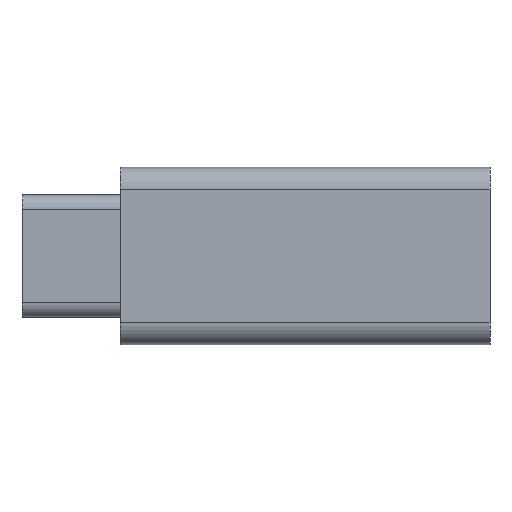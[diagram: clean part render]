
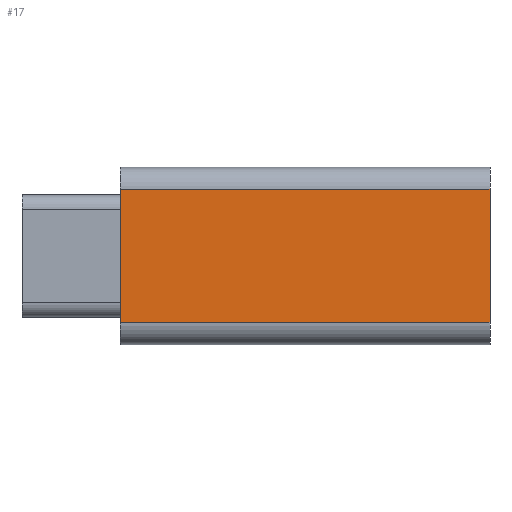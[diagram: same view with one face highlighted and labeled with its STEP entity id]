
A CAD part, top view. The second image highlights one B-rep face of the part: STEP entity #17.
In plain terms, the highlighted planar face has unit normal (0, 0, 1).
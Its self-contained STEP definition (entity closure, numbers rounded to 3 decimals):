
#17 = ADVANCED_FACE('',(#18),#32,.F.);
#18 = FACE_BOUND('',#19,.F.);
#19 = EDGE_LOOP('',(#20,#55,#83,#111));
#20 = ORIENTED_EDGE('',*,*,#21,.F.);
#21 = EDGE_CURVE('',#22,#24,#26,.T.);
#22 = VERTEX_POINT('',#23);
#23 = CARTESIAN_POINT('',(54.827,-36.639,-1.74));
#24 = VERTEX_POINT('',#25);
#25 = CARTESIAN_POINT('',(54.827,-27.639,-1.74));
#26 = SURFACE_CURVE('',#27,(#31,#43),.PCURVE_S1.);
#27 = LINE('',#28,#29);
#28 = CARTESIAN_POINT('',(54.827,-38.139,-1.74));
#29 = VECTOR('',#30,1.);
#30 = DIRECTION('',(0.,1.,0.));
#31 = PCURVE('',#32,#37);
#32 = PLANE('',#33);
#33 = AXIS2_PLACEMENT_3D('',#34,#35,#36);
#34 = CARTESIAN_POINT('',(29.827,-38.139,-1.74));
#35 = DIRECTION('',(0.,0.,-1.));
#36 = DIRECTION('',(1.,0.,0.));
#37 = DEFINITIONAL_REPRESENTATION('',(#38),#42);
#38 = LINE('',#39,#40);
#39 = CARTESIAN_POINT('',(25.,0.));
#40 = VECTOR('',#41,1.);
#41 = DIRECTION('',(0.,-1.));
#42 = ( GEOMETRIC_REPRESENTATION_CONTEXT(2) 
PARAMETRIC_REPRESENTATION_CONTEXT() REPRESENTATION_CONTEXT('2D SPACE',''
  ) );
#43 = PCURVE('',#44,#49);
#44 = PLANE('',#45);
#45 = AXIS2_PLACEMENT_3D('',#46,#47,#48);
#46 = CARTESIAN_POINT('',(54.827,-38.139,-1.74));
#47 = DIRECTION('',(1.,0.,0.));
#48 = DIRECTION('',(0.,0.,-1.));
#49 = DEFINITIONAL_REPRESENTATION('',(#50),#54);
#50 = LINE('',#51,#52);
#51 = CARTESIAN_POINT('',(0.,0.));
#52 = VECTOR('',#53,1.);
#53 = DIRECTION('',(0.,1.));
#54 = ( GEOMETRIC_REPRESENTATION_CONTEXT(2) 
PARAMETRIC_REPRESENTATION_CONTEXT() REPRESENTATION_CONTEXT('2D SPACE',''
  ) );
#55 = ORIENTED_EDGE('',*,*,#56,.F.);
#56 = EDGE_CURVE('',#57,#22,#59,.T.);
#57 = VERTEX_POINT('',#58);
#58 = CARTESIAN_POINT('',(29.827,-36.639,-1.74));
#59 = SURFACE_CURVE('',#60,(#64,#71),.PCURVE_S1.);
#60 = LINE('',#61,#62);
#61 = CARTESIAN_POINT('',(29.827,-36.639,-1.74));
#62 = VECTOR('',#63,1.);
#63 = DIRECTION('',(1.,0.,0.));
#64 = PCURVE('',#32,#65);
#65 = DEFINITIONAL_REPRESENTATION('',(#66),#70);
#66 = LINE('',#67,#68);
#67 = CARTESIAN_POINT('',(0.,-1.5));
#68 = VECTOR('',#69,1.);
#69 = DIRECTION('',(1.,0.));
#70 = ( GEOMETRIC_REPRESENTATION_CONTEXT(2) 
PARAMETRIC_REPRESENTATION_CONTEXT() REPRESENTATION_CONTEXT('2D SPACE',''
  ) );
#71 = PCURVE('',#72,#77);
#72 = CYLINDRICAL_SURFACE('',#73,1.5);
#73 = AXIS2_PLACEMENT_3D('',#74,#75,#76);
#74 = CARTESIAN_POINT('',(29.827,-36.639,-3.24));
#75 = DIRECTION('',(1.,0.,0.));
#76 = DIRECTION('',(0.,0.,1.));
#77 = DEFINITIONAL_REPRESENTATION('',(#78),#82);
#78 = LINE('',#79,#80);
#79 = CARTESIAN_POINT('',(0.,0.));
#80 = VECTOR('',#81,1.);
#81 = DIRECTION('',(0.,1.));
#82 = ( GEOMETRIC_REPRESENTATION_CONTEXT(2) 
PARAMETRIC_REPRESENTATION_CONTEXT() REPRESENTATION_CONTEXT('2D SPACE',''
  ) );
#83 = ORIENTED_EDGE('',*,*,#84,.T.);
#84 = EDGE_CURVE('',#57,#85,#87,.T.);
#85 = VERTEX_POINT('',#86);
#86 = CARTESIAN_POINT('',(29.827,-27.639,-1.74));
#87 = SURFACE_CURVE('',#88,(#92,#99),.PCURVE_S1.);
#88 = LINE('',#89,#90);
#89 = CARTESIAN_POINT('',(29.827,-38.139,-1.74));
#90 = VECTOR('',#91,1.);
#91 = DIRECTION('',(0.,1.,0.));
#92 = PCURVE('',#32,#93);
#93 = DEFINITIONAL_REPRESENTATION('',(#94),#98);
#94 = LINE('',#95,#96);
#95 = CARTESIAN_POINT('',(0.,0.));
#96 = VECTOR('',#97,1.);
#97 = DIRECTION('',(0.,-1.));
#98 = ( GEOMETRIC_REPRESENTATION_CONTEXT(2) 
PARAMETRIC_REPRESENTATION_CONTEXT() REPRESENTATION_CONTEXT('2D SPACE',''
  ) );
#99 = PCURVE('',#100,#105);
#100 = PLANE('',#101);
#101 = AXIS2_PLACEMENT_3D('',#102,#103,#104);
#102 = CARTESIAN_POINT('',(29.827,-38.139,-1.74));
#103 = DIRECTION('',(1.,0.,0.));
#104 = DIRECTION('',(0.,0.,-1.));
#105 = DEFINITIONAL_REPRESENTATION('',(#106),#110);
#106 = LINE('',#107,#108);
#107 = CARTESIAN_POINT('',(0.,0.));
#108 = VECTOR('',#109,1.);
#109 = DIRECTION('',(0.,1.));
#110 = ( GEOMETRIC_REPRESENTATION_CONTEXT(2) 
PARAMETRIC_REPRESENTATION_CONTEXT() REPRESENTATION_CONTEXT('2D SPACE',''
  ) );
#111 = ORIENTED_EDGE('',*,*,#112,.T.);
#112 = EDGE_CURVE('',#85,#24,#113,.T.);
#113 = SURFACE_CURVE('',#114,(#118,#125),.PCURVE_S1.);
#114 = LINE('',#115,#116);
#115 = CARTESIAN_POINT('',(29.827,-27.639,-1.74));
#116 = VECTOR('',#117,1.);
#117 = DIRECTION('',(1.,0.,0.));
#118 = PCURVE('',#32,#119);
#119 = DEFINITIONAL_REPRESENTATION('',(#120),#124);
#120 = LINE('',#121,#122);
#121 = CARTESIAN_POINT('',(0.,-10.5));
#122 = VECTOR('',#123,1.);
#123 = DIRECTION('',(1.,0.));
#124 = ( GEOMETRIC_REPRESENTATION_CONTEXT(2) 
PARAMETRIC_REPRESENTATION_CONTEXT() REPRESENTATION_CONTEXT('2D SPACE',''
  ) );
#125 = PCURVE('',#126,#131);
#126 = CYLINDRICAL_SURFACE('',#127,1.5);
#127 = AXIS2_PLACEMENT_3D('',#128,#129,#130);
#128 = CARTESIAN_POINT('',(29.827,-27.639,-3.24));
#129 = DIRECTION('',(1.,0.,0.));
#130 = DIRECTION('',(0.,0.,1.));
#131 = DEFINITIONAL_REPRESENTATION('',(#132),#136);
#132 = LINE('',#133,#134);
#133 = CARTESIAN_POINT('',(-0.,0.));
#134 = VECTOR('',#135,1.);
#135 = DIRECTION('',(-0.,1.));
#136 = ( GEOMETRIC_REPRESENTATION_CONTEXT(2) 
PARAMETRIC_REPRESENTATION_CONTEXT() REPRESENTATION_CONTEXT('2D SPACE',''
  ) );
